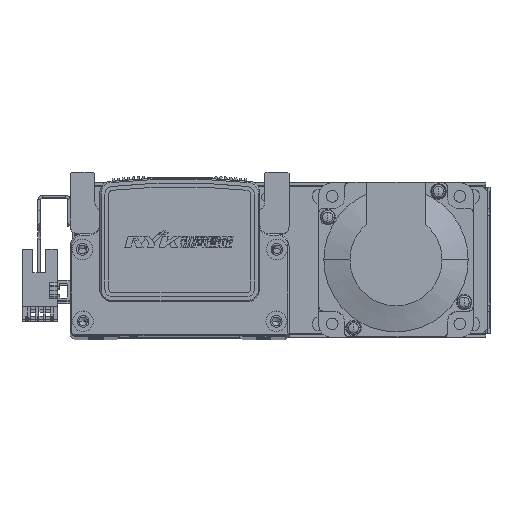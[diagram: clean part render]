
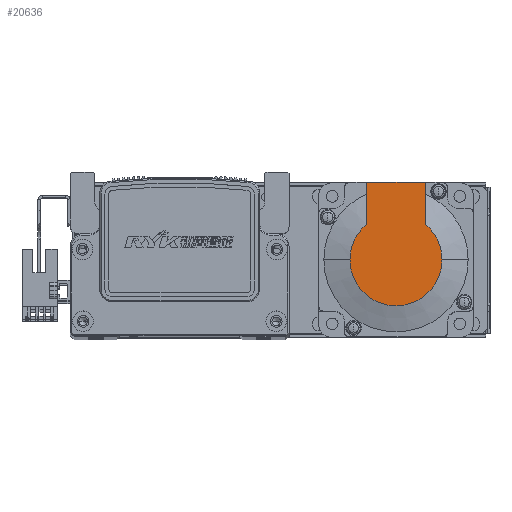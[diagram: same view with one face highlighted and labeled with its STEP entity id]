
A CAD part, top view. The second image highlights one B-rep face of the part: STEP entity #20636.
In plain terms, the highlighted planar face has unit normal (0, 0, 1) as drawn and (-1, 0, 0) by its records, which use the part's own axes.
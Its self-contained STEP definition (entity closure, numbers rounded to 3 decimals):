
#1116 = VERTEX_POINT ( 'NONE', #55182 ) ;
#1140 = VERTEX_POINT ( 'NONE', #55202 ) ;
#5408 = CARTESIAN_POINT ( 'NONE',  ( -99., 0., -17.881 ) ) ;
#5571 = CARTESIAN_POINT ( 'NONE',  ( -99., 13.735, -11.45 ) ) ;
#5745 = CARTESIAN_POINT ( 'NONE',  ( -99., 30., -11.45 ) ) ;
#5862 = CARTESIAN_POINT ( 'NONE',  ( -99., 30., 11.45 ) ) ;
#11457 = CIRCLE ( 'NONE', #37833, 17.881 ) ;
#11471 = CIRCLE ( 'NONE', #37773, 17.881 ) ;
#14273 = PLANE ( 'NONE',  #38746 ) ;
#14276 = CARTESIAN_POINT ( 'NONE',  ( -99., -8.941, 0. ) ) ;
#14285 = DIRECTION ( 'NONE',  ( -1., 0., 0. ) ) ;
#14421 = DIRECTION ( 'NONE',  ( 0., 0., 1. ) ) ;
#20636 = ADVANCED_FACE ( 'NONE', ( #49684 ), #14273, .T. ) ;
#34785 = DIRECTION ( 'NONE',  ( 0., 0., -1. ) ) ;
#34789 = CARTESIAN_POINT ( 'NONE',  ( -99., 0., 0. ) ) ;
#34790 = DIRECTION ( 'NONE',  ( -1., 0., 0. ) ) ;
#34892 = DIRECTION ( 'NONE',  ( 0., 0., -1. ) ) ;
#34903 = CARTESIAN_POINT ( 'NONE',  ( -99., 0., 0. ) ) ;
#34904 = DIRECTION ( 'NONE',  ( -1., 0., 0. ) ) ;
#37773 = AXIS2_PLACEMENT_3D ( 'NONE', #34789, #34790, #34785 ) ;
#37833 = AXIS2_PLACEMENT_3D ( 'NONE', #34903, #34904, #34892 ) ;
#37875 = AXIS2_PLACEMENT_3D ( 'NONE', #64155, #64131, #64135 ) ;
#38746 = AXIS2_PLACEMENT_3D ( 'NONE', #14276, #14285, #14421 ) ;
#49684 = FACE_OUTER_BOUND ( 'NONE', #65895, .T. ) ;
#50936 = VERTEX_POINT ( 'NONE', #5408 ) ;
#51077 = VERTEX_POINT ( 'NONE', #5571 ) ;
#51162 = VERTEX_POINT ( 'NONE', #5745 ) ;
#51228 = VERTEX_POINT ( 'NONE', #5862 ) ;
#55182 = CARTESIAN_POINT ( 'NONE',  ( -99., 13.735, 11.45 ) ) ;
#55202 = CARTESIAN_POINT ( 'NONE',  ( -99., 0., 17.881 ) ) ;
#56086 = EDGE_CURVE ( 'NONE', #1140, #1116, #11471, .T. ) ;
#56168 = EDGE_CURVE ( 'NONE', #50936, #1140, #11457, .T. ) ;
#56443 = EDGE_CURVE ( 'NONE', #51077, #50936, #62931, .T. ) ;
#56466 = EDGE_CURVE ( 'NONE', #51228, #1116, #62928, .T. ) ;
#56484 = EDGE_CURVE ( 'NONE', #51162, #51077, #62993, .T. ) ;
#56533 = EDGE_CURVE ( 'NONE', #51162, #51228, #63072, .T. ) ;
#59502 = ORIENTED_EDGE ( 'NONE', *, *, #56168, .T. ) ;
#59504 = ORIENTED_EDGE ( 'NONE', *, *, #56086, .T. ) ;
#59520 = ORIENTED_EDGE ( 'NONE', *, *, #56533, .F. ) ;
#59526 = ORIENTED_EDGE ( 'NONE', *, *, #56484, .T. ) ;
#59536 = ORIENTED_EDGE ( 'NONE', *, *, #56466, .F. ) ;
#59562 = ORIENTED_EDGE ( 'NONE', *, *, #56443, .T. ) ;
#62928 = LINE ( 'NONE', #64183, #62967 ) ;
#62931 = CIRCLE ( 'NONE', #37875, 17.881 ) ;
#62967 = VECTOR ( 'NONE', #64187, 1000. ) ;
#62993 = LINE ( 'NONE', #64222, #63044 ) ;
#63044 = VECTOR ( 'NONE', #64223, 1000. ) ;
#63072 = LINE ( 'NONE', #64328, #63073 ) ;
#63073 = VECTOR ( 'NONE', #64338, 1000. ) ;
#64131 = DIRECTION ( 'NONE',  ( -1., 0., 0. ) ) ;
#64135 = DIRECTION ( 'NONE',  ( 0., 0., -1. ) ) ;
#64155 = CARTESIAN_POINT ( 'NONE',  ( -99., 0., 0. ) ) ;
#64183 = CARTESIAN_POINT ( 'NONE',  ( -99., 0., 11.45 ) ) ;
#64187 = DIRECTION ( 'NONE',  ( 0., -1., 0. ) ) ;
#64222 = CARTESIAN_POINT ( 'NONE',  ( -99., -8.941, -11.45 ) ) ;
#64223 = DIRECTION ( 'NONE',  ( 0., -1., 0. ) ) ;
#64328 = CARTESIAN_POINT ( 'NONE',  ( -99., 30., 25. ) ) ;
#64338 = DIRECTION ( 'NONE',  ( 0., 0., 1. ) ) ;
#65895 = EDGE_LOOP ( 'NONE', ( #59526, #59562, #59502, #59504, #59536, #59520 ) ) ;
